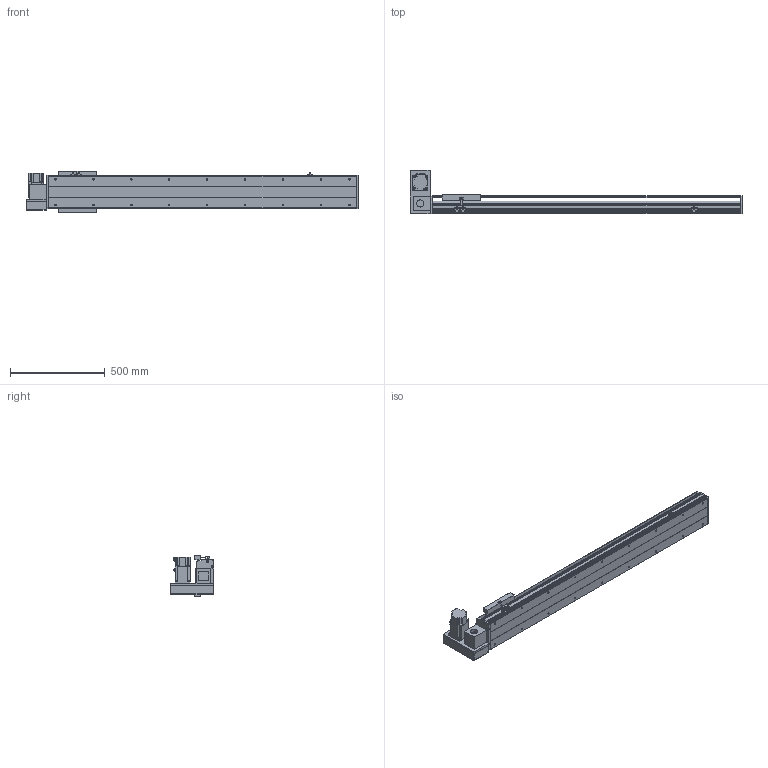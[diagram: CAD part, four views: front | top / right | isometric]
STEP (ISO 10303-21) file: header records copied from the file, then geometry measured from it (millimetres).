
FILE_DESCRIPTION(/* description */ ('STEP AP214'),/* implementation_level */ '2;1');
FILE_NAME(/* name */ 'PBS200-P40-S1250-LU-T75-C1-N(0)',/* time_stamp */ '2022-06-11T09:00:09+02:00',/* author */ ('License CC BY-ND 4.0'),/* organization */ ('CADENAS'),/* preprocessor_version */ 'ST-DEVELOPER v18.102',/* originating_system */ 'PARTsolutions',/* authorisation */ ' ');
FILE_SCHEMA (('AUTOMOTIVE_DESIGN {1 0 10303 214 3 1 1}'));
Length unit declared in the file: millimetre
Products named in the file (7): PBS200-P40-S1250-LU-T75-C1-N(0); PBS200_sensor; PBS200_plant; PBS200_sliser; T75-p1; PBS200T-LU_motors; PBS200-S1250()_body
Assembly tree (8 placements, depth 2):
  PBS200-P40-S1250-LU-T75-C1-N(0)
    PBS200_sensor  x3
    PBS200_plant
    PBS200_sliser
    T75-p1
    PBS200T-LU_motors
    PBS200-S1250()_body
Bounding box: 1750 x 231 x 221 mm (x, y, z)
Volume: 12798510.5 mm3; surface area: 2065612.7 mm2
Topology: 8 solids, 8 shells, 926 faces, 2384 edges, 1554 vertices
Faces by surface type: plane 576, cylinder 300, cone 50
Full cylindrical faces by diameter (mm): 2.459 x6, 3.242 x4, 4.5 x6, 4.917 x4, 5 x6, 6 x7, 6.6 x8, 6.647 x22, 8 x6, 10 x4, 12 x8, 38 x2, 40 x1, 70 x1
Entity records: 24701 total; most frequent: DIRECTION 4351, CARTESIAN_POINT 4210, ORIENTED_EDGE 3994, EDGE_CURVE 1997, AXIS2_PLACEMENT_3D 1519, VERTEX_POINT 1378, LINE 1313, VECTOR 1313
